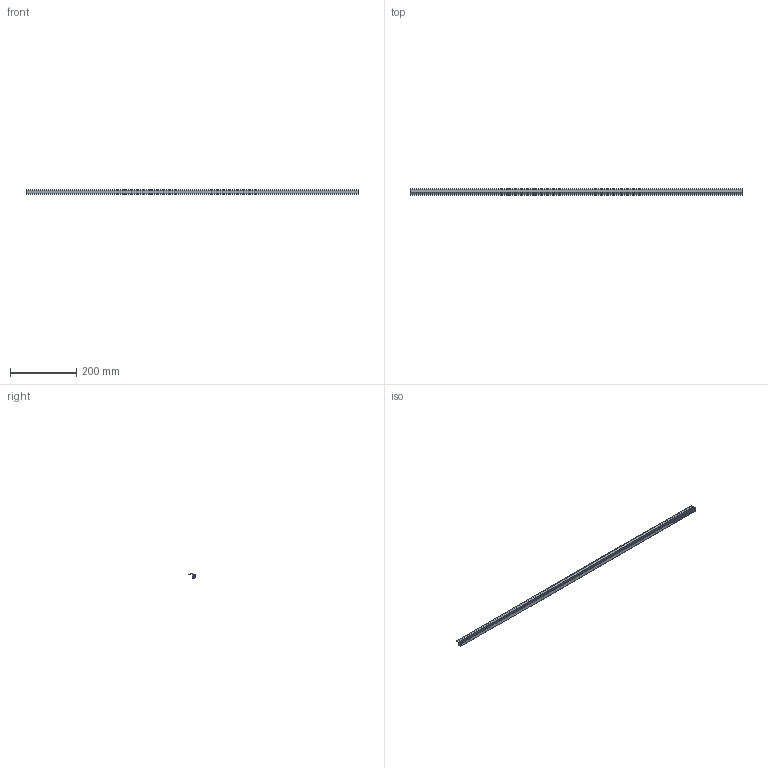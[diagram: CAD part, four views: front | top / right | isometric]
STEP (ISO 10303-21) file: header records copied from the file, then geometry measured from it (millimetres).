
FILE_DESCRIPTION(('no description'),'unknown implementation level');
FILE_NAME('3842993017_161440354.stp',' ',('Bosch Rexroth AG'),('CADClick - KiM GmbH - www.kimweb.de'),'unknown preprocess','ACIS','unknown authorization');
FILE_SCHEMA(('CONFIG_CONTROL_DESIGN'));
Length unit declared in the file: millimetre
Products named in the file (1): 1
Bounding box: 1000 x 19.23 x 12.5 mm (x, y, z)
Volume: 79240.8 mm3; surface area: 90981 mm2
Topology: 1 solids, 1 shells, 88 faces, 258 edges, 172 vertices
Faces by surface type: plane 77, cylinder 11
Entity records: 2928 total; most frequent: CARTESIAN_POINT 519, ORIENTED_EDGE 516, DIRECTION 458, EDGE_CURVE 258, LINE 236, VECTOR 236, VERTEX_POINT 172, AXIS2_PLACEMENT_3D 111
